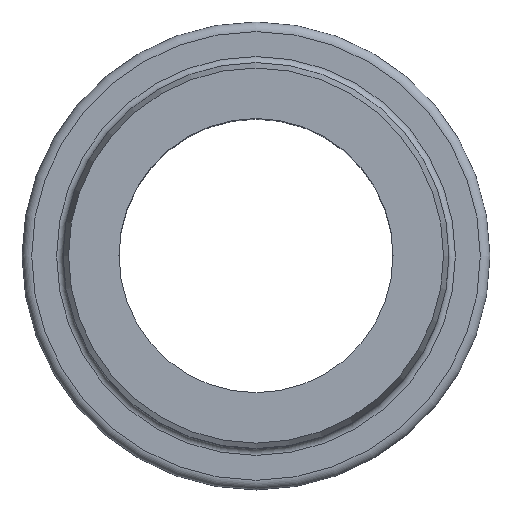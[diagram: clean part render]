
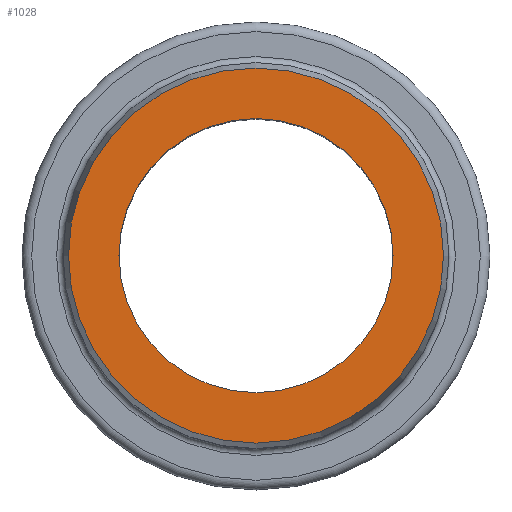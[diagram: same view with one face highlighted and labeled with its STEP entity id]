
A CAD part, top view. The second image highlights one B-rep face of the part: STEP entity #1028.
In plain terms, the highlighted planar face has unit normal (0, 0, 1).
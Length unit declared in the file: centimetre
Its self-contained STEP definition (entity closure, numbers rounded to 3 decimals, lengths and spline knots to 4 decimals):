
#197=PLANE('',#1112);
#394=VERTEX_POINT('',#40094);
#395=VERTEX_POINT('',#40097);
#426=CIRCLE('',#1111,4.4478);
#427=CIRCLE('',#1113,3.2512);
#560=EDGE_CURVE('',#394,#394,#426,.T.);
#561=EDGE_CURVE('',#395,#395,#427,.T.);
#826=ORIENTED_EDGE('',*,*,#561,.F.);
#827=ORIENTED_EDGE('',*,*,#560,.T.);
#898=EDGE_LOOP('',(#826));
#899=EDGE_LOOP('',(#827));
#970=FACE_BOUND('',#898,.T.);
#971=FACE_BOUND('',#899,.T.);
#1028=ADVANCED_FACE('',(#970,#971),#197,.T.);
#1111=AXIS2_PLACEMENT_3D('',#40093,#1308,#1309);
#1112=AXIS2_PLACEMENT_3D('',#40095,#1310,$);
#1113=AXIS2_PLACEMENT_3D('',#40096,#1311,#1312);
#1308=DIRECTION('',(0.,0.,1.));
#1309=DIRECTION('',(0.,4.448,0.));
#1310=DIRECTION('',(0.,0.,1.));
#1311=DIRECTION('',(0.,0.,1.));
#1312=DIRECTION('',(0.,3.251,0.));
#40093=CARTESIAN_POINT('',(0.,0.,0.));
#40094=CARTESIAN_POINT('',(0.,4.4478,0.));
#40095=CARTESIAN_POINT('',(0.,3.8495,0.));
#40096=CARTESIAN_POINT('',(0.,0.,0.));
#40097=CARTESIAN_POINT('',(0.,3.2512,0.));
